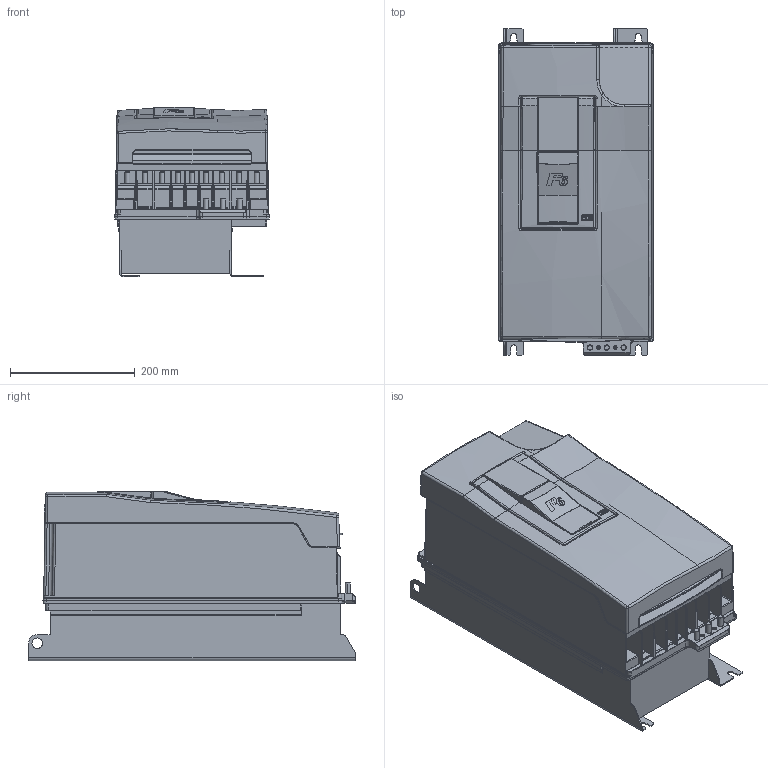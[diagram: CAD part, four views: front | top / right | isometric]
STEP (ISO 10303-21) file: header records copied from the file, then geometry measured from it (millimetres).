
FILE_DESCRIPTION (( 'STEP AP214' ), '1' );
FILE_NAME ('F6-6 TR0-K000.STEP', '2020-12-08T14:41:19', ( '' ), ( '' ), 'SwSTEP 2.0', 'SolidWorks 2019', '' );
FILE_SCHEMA (( 'AUTOMOTIVE_DESIGN' ));
Length unit declared in the file: millimetre
Products named in the file (11): 10059765_000; 10035735_000_Kundenmodell; 10058413_000; 10061794_000; 10059764_000_Blindabdeckung (Kundenmodell); 10061887_000; 10028354_000_Basis Leistungsteil F6-6 TR0 (Kundenmodell); 10061793_000_Deckelbaugruppe F6-6 (Kundenmodell); F6-6 TR0-K000; 10027052_000_Geh„usebaugruppe F6-6 (Kundenmodell); 10060787_000
Assembly tree (10 placements, depth 4):
  F6-6 TR0-K000
    10028354_000_Basis Leistungsteil F6-6 TR0 (Kundenmodell)
      10061887_000
    10027052_000_Geh„usebaugruppe F6-6 (Kundenmodell)
      10061793_000_Deckelbaugruppe F6-6 (Kundenmodell)
        10061794_000
      10060787_000
    10035735_000_Kundenmodell
      10059764_000_Blindabdeckung (Kundenmodell)
        10059765_000
      10058413_000
Bounding box: 249 x 525 x 271.9 mm (x, y, z)
Volume: 25426667.3 mm3; surface area: 1368360.7 mm2
Topology: 12 solids, 19 shells, 2755 faces, 6910 edges, 4117 vertices
Faces by surface type: cylinder 982, plane 944, bspline 549, torus 110, sphere 108, cone 62
Entity records: 93209 total; most frequent: CARTESIAN_POINT 32273, ORIENTED_EDGE 13524, DIRECTION 11687, EDGE_CURVE 6762, AXIS2_PLACEMENT_3D 4156, VERTEX_POINT 4115, VECTOR 3375, LINE 3375
